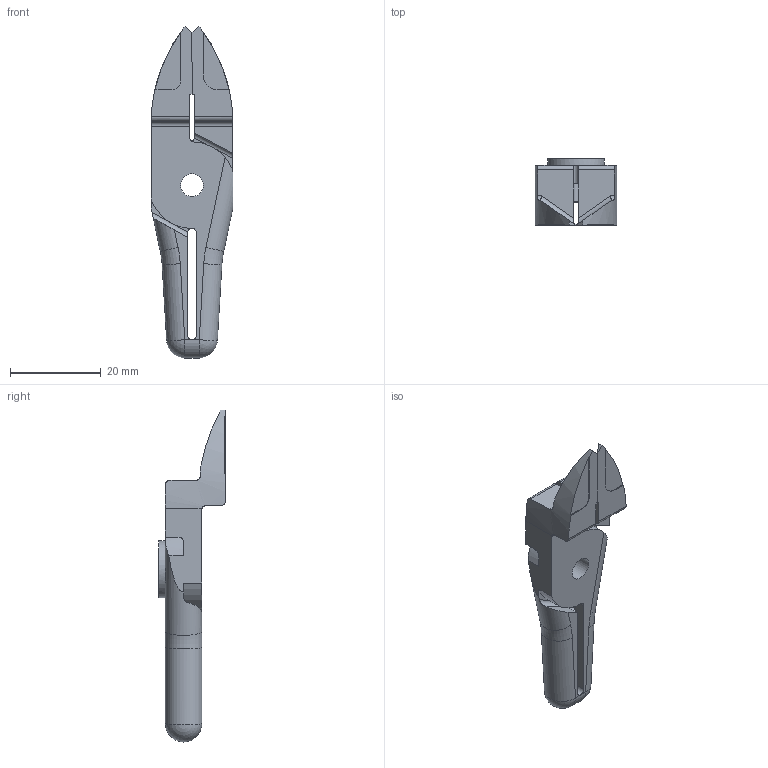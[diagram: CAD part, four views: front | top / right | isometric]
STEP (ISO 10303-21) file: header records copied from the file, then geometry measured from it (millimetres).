
FILE_DESCRIPTION(/* description */ (''),/* implementation_level */ '2;1');
FILE_NAME(/* name */ 'W:\Technik\Konstruktion\CAD-Daten\DJa\Vessel Schneidzangeneinsatz\NY15RAH\NY15RAH closed.stp',/* time_stamp */ '2016-09-20T14:00:09+02:00',/* author */ ('DJansen'),/* organization */ (''),/* preprocessor_version */ 'ST-DEVELOPER v16.5',/* originating_system */ 'Autodesk Inventor 2017',/* authorisation */ '');
FILE_SCHEMA (('AUTOMOTIVE_DESIGN { 1 0 10303 214 3 1 1 }'));
Length unit declared in the file: millimetre
Products named in the file (1): NY15RAH Baugruppe
Bounding box: 18 x 14.7 x 73 mm (x, y, z)
Volume: 6565 mm3; surface area: 4217 mm2
Topology: 1 solids, 1 shells, 86 faces, 239 edges, 154 vertices
Faces by surface type: plane 45, cylinder 37, sphere 2, torus 2
Full cylindrical faces by diameter (mm): 4 x2, 5.05 x1, 6.1 x1, 12.5 x1
Entity records: 2851 total; most frequent: CARTESIAN_POINT 602, DIRECTION 474, ORIENTED_EDGE 466, EDGE_CURVE 232, AXIS2_PLACEMENT_3D 173, VERTEX_POINT 152, LINE 128, VECTOR 128
